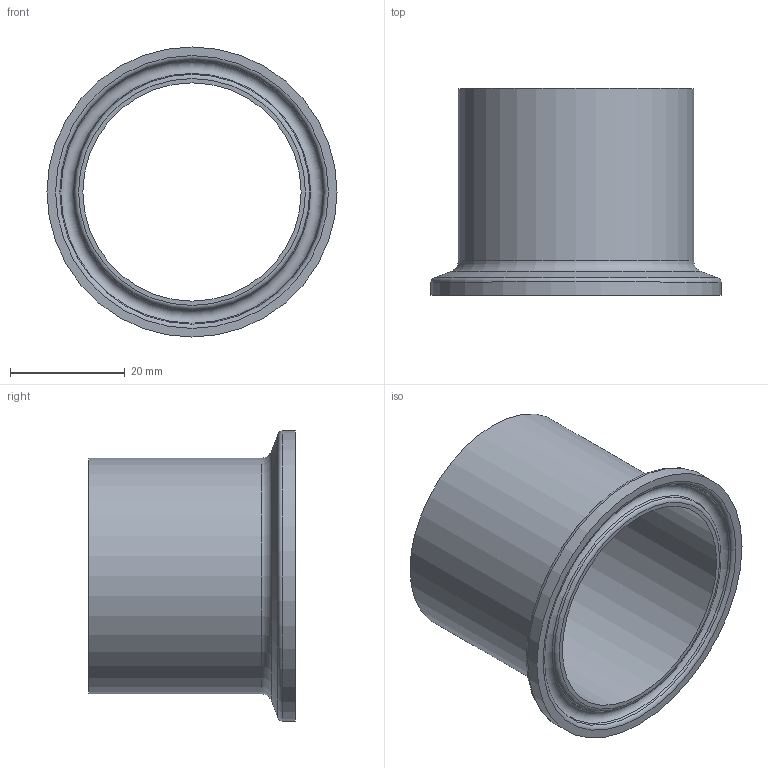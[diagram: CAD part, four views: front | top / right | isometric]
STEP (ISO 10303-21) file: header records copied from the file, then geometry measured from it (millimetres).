
FILE_DESCRIPTION(('Ferrule_41x1,5_L36_FL50,5_V02'),'2;1');
FILE_NAME('Ferrule_41x1,5_L36_FL50,5_V02.stp','2013-11-03T13:12:54',('DOCKWEILER AG'),('DOCKWEILER AG'),'Autodesk Inventor 2012','Autodesk Inventor 2012','');
FILE_SCHEMA(('CONFIG_CONTROL_DESIGN'));
Length unit declared in the file: millimetre
Products named in the file (1): N0003_003_001
Bounding box: 50.5 x 36 x 50.5 mm (x, y, z)
Volume: 8775.1 mm3; surface area: 10716 mm2
Topology: 1 solids, 1 shells, 14 faces, 25 edges, 14 vertices
Faces by surface type: torus 5, plane 3, cylinder 3, cone 3
Full cylindrical faces by diameter (mm): 38 x1, 41 x1, 50.5 x1
Entity records: 314 total; most frequent: DIRECTION 58, CARTESIAN_POINT 43, AXIS2_PLACEMENT_3D 29, ORIENTED_EDGE 28, EDGE_LOOP 28, VERTEX_POINT 14, CIRCLE 14, EDGE_CURVE 14
